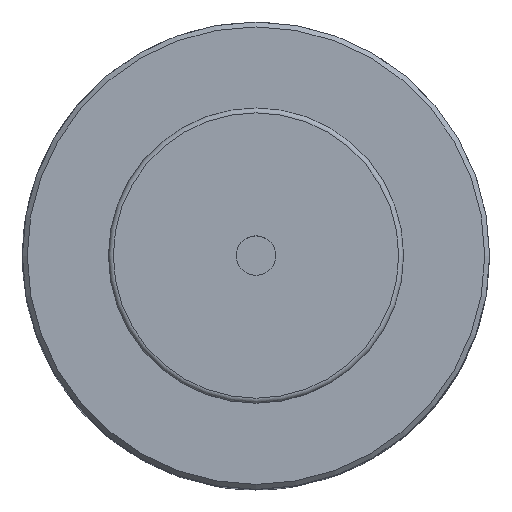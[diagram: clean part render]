
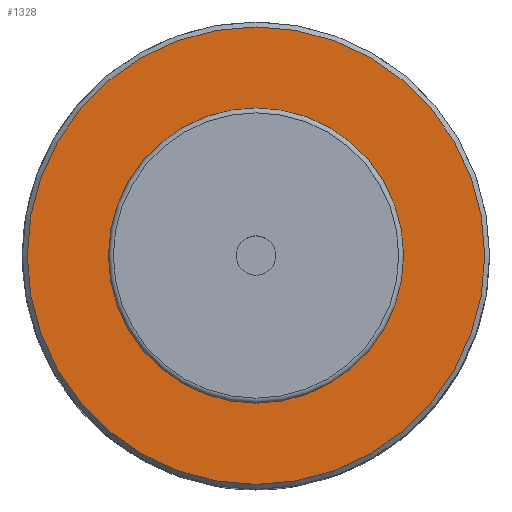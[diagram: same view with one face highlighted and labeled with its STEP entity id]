
A CAD part, top view. The second image highlights one B-rep face of the part: STEP entity #1328.
In plain terms, the highlighted planar face has unit normal (0, 0, 1).
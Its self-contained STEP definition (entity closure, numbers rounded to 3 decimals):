
#1308 = VERTEX_POINT('',#1309);
#1309 = CARTESIAN_POINT('',(46.5,0.,77.));
#1317 = EDGE_CURVE('',#1308,#1308,#1318,.T.);
#1318 = CIRCLE('',#1319,46.5);
#1319 = AXIS2_PLACEMENT_3D('',#1320,#1321,#1322);
#1320 = CARTESIAN_POINT('',(0.,0.,77.));
#1321 = DIRECTION('',(0.,0.,1.));
#1322 = DIRECTION('',(1.,0.,-0.));
#1328 = ADVANCED_FACE('',(#1329),#1332,.T.);
#1329 = FACE_BOUND('',#1330,.T.);
#1330 = EDGE_LOOP('',(#1331));
#1331 = ORIENTED_EDGE('',*,*,#1317,.T.);
#1332 = PLANE('',#1333);
#1333 = AXIS2_PLACEMENT_3D('',#1334,#1335,#1336);
#1334 = CARTESIAN_POINT('',(0.,0.,77.));
#1335 = DIRECTION('',(0.,0.,1.));
#1336 = DIRECTION('',(1.,0.,-0.));
